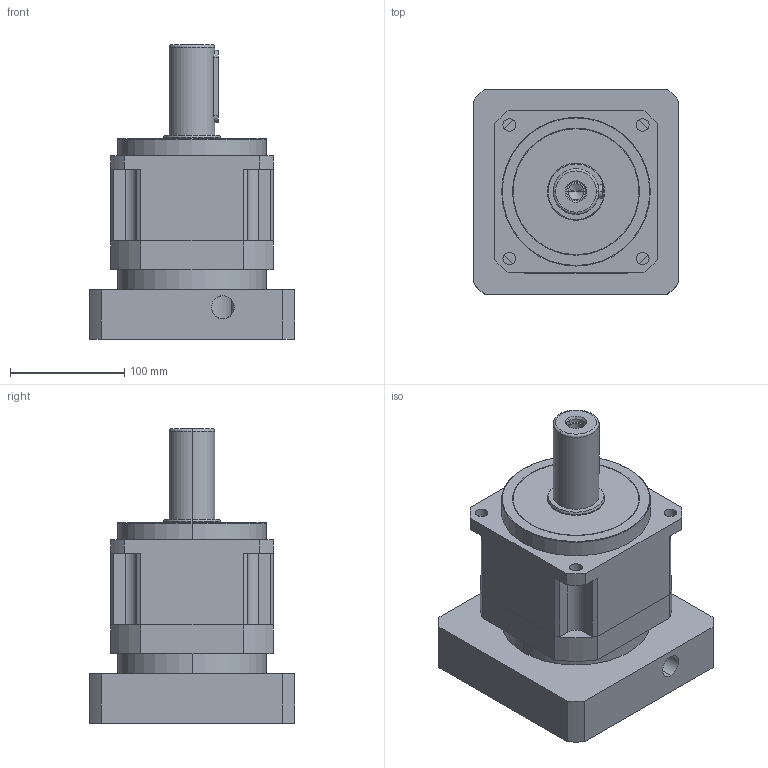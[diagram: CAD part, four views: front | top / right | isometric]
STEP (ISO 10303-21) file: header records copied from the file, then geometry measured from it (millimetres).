
FILE_DESCRIPTION (( 'STEP AP214' ), '1' );
FILE_NAME ('XAB142-L1-[ ]-P2 35J10-79-114.3-200-M12 标准40轴(输入键10)1111.STEP', '2023-05-26T05:00:02', ( '' ), ( '' ), 'SwSTEP 2.0', 'SolidWorks 2022', '' );
FILE_SCHEMA (( 'AUTOMOTIVE_DESIGN' ));
Length unit declared in the file: millimetre
Products named in the file (1): XAB142-L1-[   ]-P2 35J10-79-114.3-200-M12 标准40轴(输入键10)1111
Bounding box: 180 x 180 x 257.5 mm (x, y, z)
Volume: 3268649.1 mm3; surface area: 352652.2 mm2
Topology: 12 solids, 12 shells, 499 faces, 1186 edges, 750 vertices
Faces by surface type: cylinder 221, plane 206, cone 54, torus 18
Entity records: 15512 total; most frequent: CARTESIAN_POINT 2935, DIRECTION 2742, ORIENTED_EDGE 2340, EDGE_CURVE 1170, AXIS2_PLACEMENT_3D 1087, VERTEX_POINT 750, EDGE_LOOP 604, CIRCLE 587
